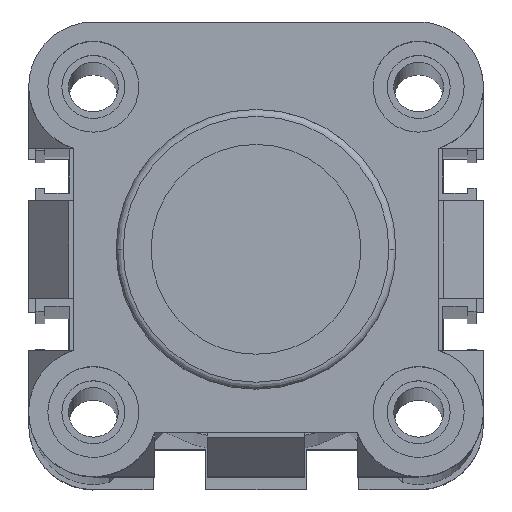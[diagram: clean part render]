
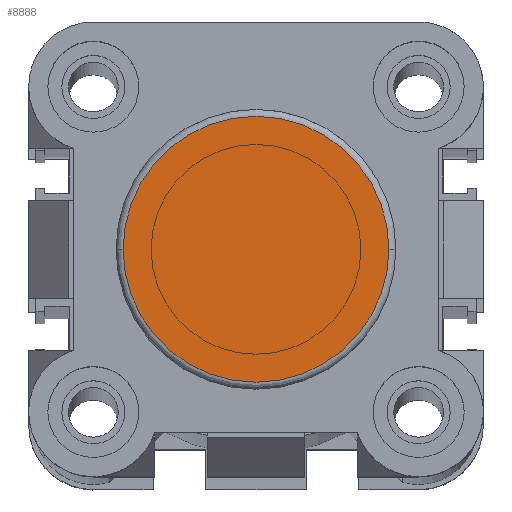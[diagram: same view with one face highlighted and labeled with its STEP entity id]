
A CAD part, top view. The second image highlights one B-rep face of the part: STEP entity #8888.
In plain terms, the highlighted planar face has unit normal (0, 0, 1).
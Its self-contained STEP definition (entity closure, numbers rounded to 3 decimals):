
#695 = CARTESIAN_POINT ( 'NONE',  ( 32.5, 32.5, 34. ) ) ;
#1202 = AXIS2_PLACEMENT_3D ( 'NONE', #695, #2546, #2370 ) ;
#1506 = VERTEX_POINT ( 'NONE', #4131 ) ;
#2370 = DIRECTION ( 'NONE',  ( 1., 0., 0. ) ) ;
#2546 = DIRECTION ( 'NONE',  ( 0., 0., 1. ) ) ;
#2580 = DIRECTION ( 'NONE',  ( 0., 0., 1. ) ) ;
#2822 = CARTESIAN_POINT ( 'NONE',  ( 51.5, 32.5, 34. ) ) ;
#3885 = AXIS2_PLACEMENT_3D ( 'NONE', #13803, #2580, #6149 ) ;
#4131 = CARTESIAN_POINT ( 'NONE',  ( 13.5, 32.5, 34. ) ) ;
#4646 = FACE_OUTER_BOUND ( 'NONE', #13036, .T. ) ;
#4889 = VERTEX_POINT ( 'NONE', #2822 ) ;
#5270 = DIRECTION ( 'NONE',  ( 1., 0., 0. ) ) ;
#6149 = DIRECTION ( 'NONE',  ( 1., 0., 0. ) ) ;
#8763 = PLANE ( 'NONE',  #21625 ) ;
#8888 = ADVANCED_FACE ( 'NONE', ( #4646 ), #8763, .T. ) ;
#13036 = EDGE_LOOP ( 'NONE', ( #20107, #13991 ) ) ;
#13803 = CARTESIAN_POINT ( 'NONE',  ( 32.5, 32.5, 34. ) ) ;
#13991 = ORIENTED_EDGE ( 'NONE', *, *, #20519, .T. ) ;
#18477 = CARTESIAN_POINT ( 'NONE',  ( 32.5, 32.5, 34. ) ) ;
#18874 = CIRCLE ( 'NONE', #1202, 19. ) ;
#20107 = ORIENTED_EDGE ( 'NONE', *, *, #22271, .T. ) ;
#20519 = EDGE_CURVE ( 'NONE', #1506, #4889, #18874, .T. ) ;
#21625 = AXIS2_PLACEMENT_3D ( 'NONE', #18477, #24213, #5270 ) ;
#22271 = EDGE_CURVE ( 'NONE', #4889, #1506, #23208, .T. ) ;
#23208 = CIRCLE ( 'NONE', #3885, 19. ) ;
#24213 = DIRECTION ( 'NONE',  ( 0., 0., 1. ) ) ;
